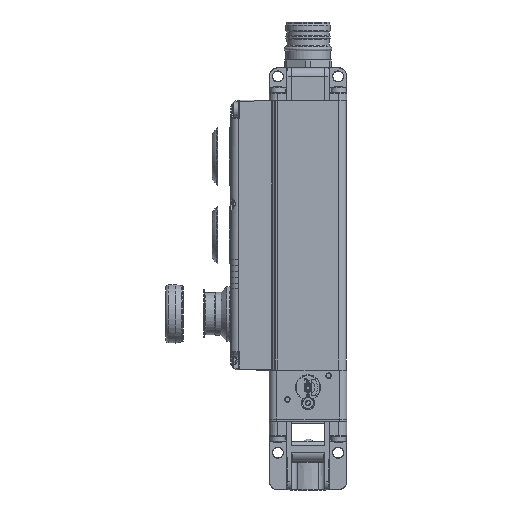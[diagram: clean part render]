
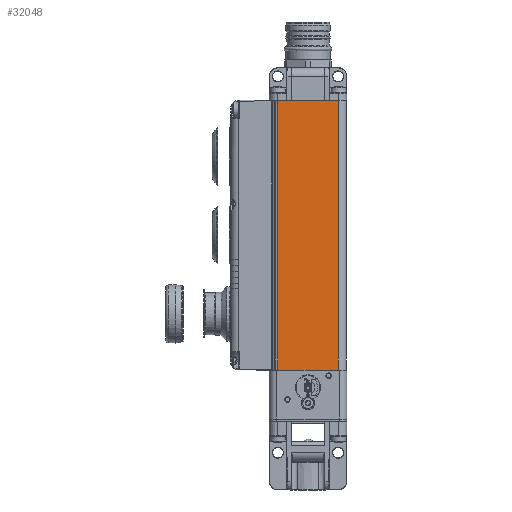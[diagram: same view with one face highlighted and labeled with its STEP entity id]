
A CAD part, front view. The second image highlights one B-rep face of the part: STEP entity #32048.
In plain terms, the highlighted planar face has unit normal (0, -1, 0).
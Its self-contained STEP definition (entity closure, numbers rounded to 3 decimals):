
#1721=PLANE('',#35287);
#2500=LINE('',#57555,#4245);
#2582=LINE('',#59190,#4327);
#3193=LINE('',#67011,#4938);
#3194=LINE('',#67012,#4939);
#4245=VECTOR('',#39800,10.);
#4327=VECTOR('',#40404,10.);
#4938=VECTOR('',#43047,10.);
#4939=VECTOR('',#43048,10.);
#7053=FACE_OUTER_BOUND('',#9113,.T.);
#9113=EDGE_LOOP('',(#28067,#28068,#28069,#28070));
#13862=VERTEX_POINT('',#57552);
#13863=VERTEX_POINT('',#57554);
#14032=VERTEX_POINT('',#59188);
#14033=VERTEX_POINT('',#59189);
#17653=EDGE_CURVE('',#13862,#13863,#2500,.T.);
#17942=EDGE_CURVE('',#14032,#14033,#2582,.T.);
#19351=EDGE_CURVE('',#13863,#14032,#3193,.T.);
#19352=EDGE_CURVE('',#14033,#13862,#3194,.T.);
#28067=ORIENTED_EDGE('',*,*,#19351,.F.);
#28068=ORIENTED_EDGE('',*,*,#17653,.F.);
#28069=ORIENTED_EDGE('',*,*,#19352,.F.);
#28070=ORIENTED_EDGE('',*,*,#17942,.F.);
#32048=ADVANCED_FACE('',(#7053),#1721,.T.);
#35287=AXIS2_PLACEMENT_3D('',#67010,#43045,#43046);
#39800=DIRECTION('',(-1.,0.,0.));
#40404=DIRECTION('',(1.,0.,0.));
#43045=DIRECTION('center_axis',(0.,-1.,0.));
#43046=DIRECTION('ref_axis',(1.,0.,0.));
#43047=DIRECTION('',(0.,0.,1.));
#43048=DIRECTION('',(0.,0.,-1.));
#57552=CARTESIAN_POINT('',(15.6,-19.75,13.95));
#57554=CARTESIAN_POINT('',(-15.6,-19.75,13.95));
#57555=CARTESIAN_POINT('',(19.75,-19.75,13.95));
#59188=CARTESIAN_POINT('',(-15.6,-19.75,152.75));
#59189=CARTESIAN_POINT('',(15.6,-19.75,152.75));
#59190=CARTESIAN_POINT('',(19.75,-19.75,152.75));
#67010=CARTESIAN_POINT('Origin',(-19.75,-19.75,83.35));
#67011=CARTESIAN_POINT('',(-15.6,-19.75,83.35));
#67012=CARTESIAN_POINT('',(15.6,-19.75,83.35));
